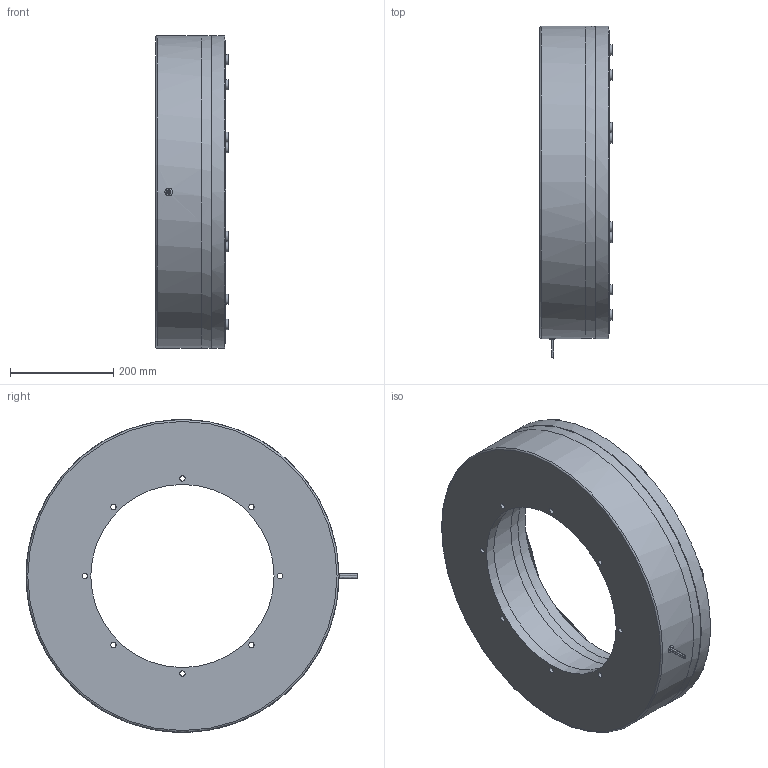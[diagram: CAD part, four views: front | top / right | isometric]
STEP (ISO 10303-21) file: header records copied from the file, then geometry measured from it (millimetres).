
FILE_DESCRIPTION(/* description */ (''),/* implementation_level */ '2;1');
FILE_NAME(/* name */ 'X:\INVENTOR\DISEGNI\08_Freni_Friz_Elettmag_Monodisco\08_28 EMFL_DF\EMFL_DF STEP\08_28_600_11 EMFL600_DF-B@STEP.stp',/* time_stamp */ '2018-04-23T16:14:20+02:00',/* author */ ('stefano'),/* organization */ (''),/* preprocessor_version */ 'ST-DEVELOPER v17',/* originating_system */ 'Autodesk Inventor 2018',/* authorisation */ '');
FILE_SCHEMA (('AUTOMOTIVE_DESIGN { 1 0 10303 214 3 1 1 }'));
Length unit declared in the file: millimetre
Products named in the file (1): 08_28_600_11 EMFL600_DF-B_Substitute_1
Bounding box: 140 x 643.06 x 606 mm (x, y, z)
Volume: 21268478.6 mm3; surface area: 1564325.6 mm2
Topology: 4 solids, 4 shells, 553 faces, 1723 edges, 1148 vertices
Faces by surface type: cylinder 303, plane 197, cone 49, bspline 3, torus 1
Full cylindrical faces by diameter (mm): 5 x16, 8.376 x1, 10.5 x8, 12 x1, 14 x16, 16.1 x16, 19.8 x16, 20 x16, 22 x16, 355 x1, 398 x2, 410 x1, 452 x2, 468 x1, 550 x1, 566 x2, 605 x2, 606 x1
Entity records: 20893 total; most frequent: DIRECTION 3907, CARTESIAN_POINT 3680, ORIENTED_EDGE 3448, EDGE_CURVE 1724, AXIS2_PLACEMENT_3D 1646, VERTEX_POINT 1149, CIRCLE 1095, EDGE_LOOP 690
